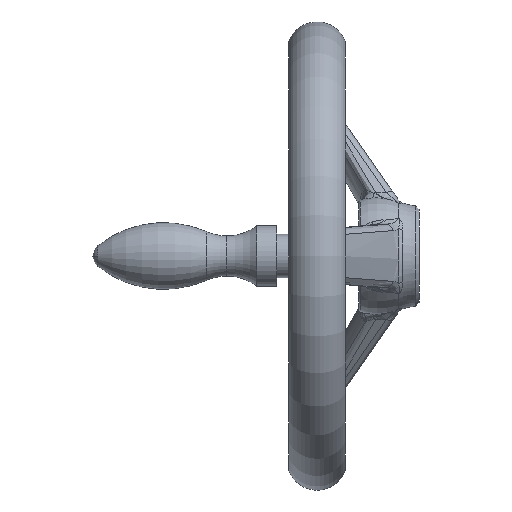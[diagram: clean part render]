
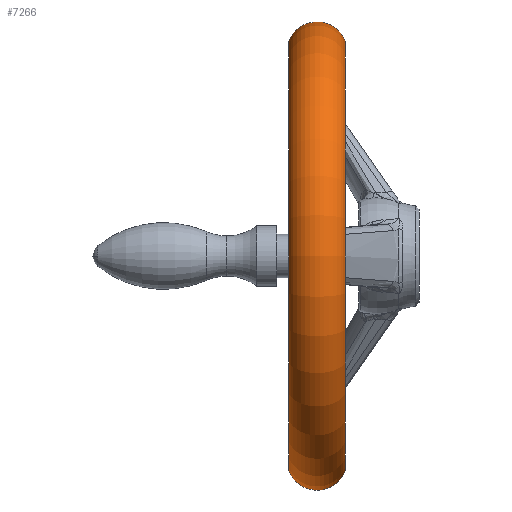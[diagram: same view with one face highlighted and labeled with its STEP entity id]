
A CAD part, left-side view. The second image highlights one B-rep face of the part: STEP entity #7266.
In plain terms, the highlighted toroidal (fillet/blend) face has major radius 60.979 mm and minor radius 9.021 mm.
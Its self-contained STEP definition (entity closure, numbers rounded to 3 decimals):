
#122 = DIRECTION ( 'NONE',  ( 0., 0., -1. ) ) ;
#169 = AXIS2_PLACEMENT_3D ( 'NONE', #793, #5089, #6862 ) ;
#437 = ORIENTED_EDGE ( 'NONE', *, *, #5218, .F. ) ;
#677 = EDGE_LOOP ( 'NONE', ( #5297, #4822, #5744, #437 ) ) ;
#793 = CARTESIAN_POINT ( 'NONE',  ( 0., 30.5, 0. ) ) ;
#881 = AXIS2_PLACEMENT_3D ( 'NONE', #2022, #8084, #2889 ) ;
#1995 = AXIS2_PLACEMENT_3D ( 'NONE', #4864, #10932, #5751 ) ;
#2022 = CARTESIAN_POINT ( 'NONE',  ( 0., 30.5, 60.979 ) ) ;
#2031 = CARTESIAN_POINT ( 'NONE',  ( 0., 30.5, -60.979 ) ) ;
#2869 = CIRCLE ( 'NONE', #3062, 64. ) ;
#2889 = DIRECTION ( 'NONE',  ( 0., 0., -1. ) ) ;
#2894 = DIRECTION ( 'NONE',  ( 0., 0., 1. ) ) ;
#3062 = AXIS2_PLACEMENT_3D ( 'NONE', #10514, #5340, #122 ) ;
#3111 = VERTEX_POINT ( 'NONE', #5040 ) ;
#3170 = EDGE_CURVE ( 'NONE', #7148, #6812, #7924, .T. ) ;
#4822 = ORIENTED_EDGE ( 'NONE', *, *, #10376, .T. ) ;
#4864 = CARTESIAN_POINT ( 'NONE',  ( 0., 39., 0. ) ) ;
#4917 = VERTEX_POINT ( 'NONE', #5201 ) ;
#5040 = CARTESIAN_POINT ( 'NONE',  ( 0., 22., -64. ) ) ;
#5068 = CARTESIAN_POINT ( 'NONE',  ( 0., 22., 64. ) ) ;
#5089 = DIRECTION ( 'NONE',  ( 0., -1., 0. ) ) ;
#5201 = CARTESIAN_POINT ( 'NONE',  ( 0., 39., -64. ) ) ;
#5218 = EDGE_CURVE ( 'NONE', #6812, #3111, #2869, .T. ) ;
#5297 = ORIENTED_EDGE ( 'NONE', *, *, #3170, .F. ) ;
#5340 = DIRECTION ( 'NONE',  ( 0., -1., 0. ) ) ;
#5744 = ORIENTED_EDGE ( 'NONE', *, *, #9703, .T. ) ;
#5751 = DIRECTION ( 'NONE',  ( 0., 0., -1. ) ) ;
#6812 = VERTEX_POINT ( 'NONE', #5068 ) ;
#6862 = DIRECTION ( 'NONE',  ( 0., 0., -1. ) ) ;
#7148 = VERTEX_POINT ( 'NONE', #9878 ) ;
#7194 = CIRCLE ( 'NONE', #1995, 64. ) ;
#7266 = ADVANCED_FACE ( 'NONE', ( #8308 ), #8038, .T. ) ;
#7924 = CIRCLE ( 'NONE', #881, 9.021 ) ;
#8038 = TOROIDAL_SURFACE ( 'NONE', #169, 60.979, 9.021 ) ;
#8084 = DIRECTION ( 'NONE',  ( 1., 0., 0. ) ) ;
#8090 = DIRECTION ( 'NONE',  ( -1., 0., 0. ) ) ;
#8308 = FACE_OUTER_BOUND ( 'NONE', #677, .T. ) ;
#8819 = CIRCLE ( 'NONE', #9025, 9.021 ) ;
#9025 = AXIS2_PLACEMENT_3D ( 'NONE', #2031, #8090, #2894 ) ;
#9703 = EDGE_CURVE ( 'NONE', #4917, #3111, #8819, .T. ) ;
#9878 = CARTESIAN_POINT ( 'NONE',  ( 0., 39., 64. ) ) ;
#10376 = EDGE_CURVE ( 'NONE', #7148, #4917, #7194, .T. ) ;
#10514 = CARTESIAN_POINT ( 'NONE',  ( 0., 22., 0. ) ) ;
#10932 = DIRECTION ( 'NONE',  ( 0., -1., 0. ) ) ;
